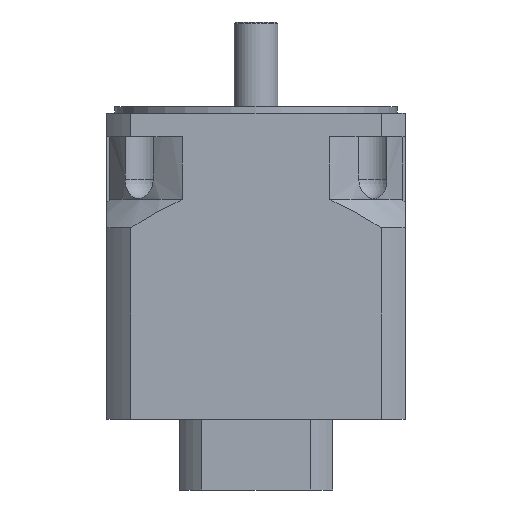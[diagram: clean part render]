
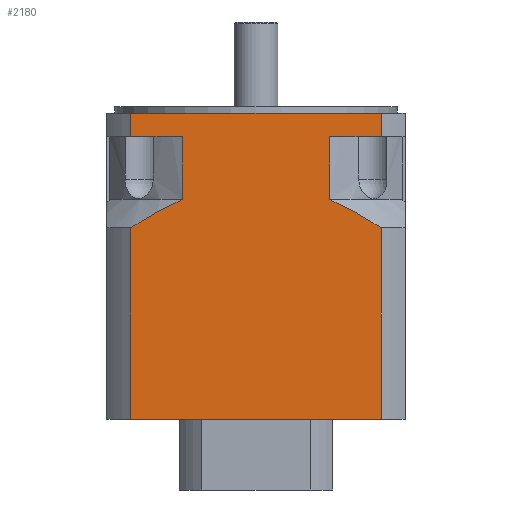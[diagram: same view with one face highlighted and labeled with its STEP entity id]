
A CAD part, front view. The second image highlights one B-rep face of the part: STEP entity #2180.
In plain terms, the highlighted planar face has unit normal (0, -1, 0).
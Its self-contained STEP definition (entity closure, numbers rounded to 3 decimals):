
#860=CARTESIAN_POINT('',(-79.693,-95.,240.0));
#861=VERTEX_POINT('',#860);
#862=CARTESIAN_POINT('',(79.693,-95.,240.0));
#863=VERTEX_POINT('',#862);
#864=CARTESIAN_POINT('',(-79.693,-95.0,240.0));
#865=DIRECTION('',(1.0,0.0,0.0));
#866=VECTOR('',#865,159.386);
#867=LINE('',#864,#866);
#868=EDGE_CURVE('',#861,#863,#867,.T.);
#1015=CARTESIAN_POINT('',(79.693,-95.,225.0));
#1016=VERTEX_POINT('',#1015);
#1017=CARTESIAN_POINT('',(79.693,-95.,240.0));
#1018=DIRECTION('',(0.0,0.0,-1.0));
#1019=VECTOR('',#1018,15.0);
#1020=LINE('',#1017,#1019);
#1021=EDGE_CURVE('',#863,#1016,#1020,.T.);
#1047=CARTESIAN_POINT('',(-79.693,-95.0,225.0));
#1048=VERTEX_POINT('',#1047);
#1049=CARTESIAN_POINT('',(-79.693,-95.0,225.0));
#1050=DIRECTION('',(0.0,0.0,1.0));
#1051=VECTOR('',#1050,15.0);
#1052=LINE('',#1049,#1051);
#1053=EDGE_CURVE('',#1048,#861,#1052,.T.);
#1217=CARTESIAN_POINT('',(47.021,-95.0,225.0));
#1218=VERTEX_POINT('',#1217);
#1219=CARTESIAN_POINT('',(79.693,-95.,225.0));
#1220=DIRECTION('',(-1.0,0.0,0.0));
#1221=VECTOR('',#1220,32.672);
#1222=LINE('',#1219,#1221);
#1223=EDGE_CURVE('',#1016,#1218,#1222,.T.);
#1286=CARTESIAN_POINT('',(-47.021,-95.0,225.0));
#1287=VERTEX_POINT('',#1286);
#1288=CARTESIAN_POINT('',(-47.021,-95.0,225.0));
#1289=DIRECTION('',(-1.0,0.0,0.0));
#1290=VECTOR('',#1289,32.672);
#1291=LINE('',#1288,#1290);
#1292=EDGE_CURVE('',#1287,#1048,#1291,.T.);
#1738=CARTESIAN_POINT('',(47.021,-95.0,185.0));
#1739=VERTEX_POINT('',#1738);
#1747=CARTESIAN_POINT('',(79.693,-95.,167.0));
#1748=VERTEX_POINT('',#1747);
#1749=CARTESIAN_POINT('',(79.693,-95.,167.0));
#1750=CARTESIAN_POINT('',(62.079,-95.0,178.321));
#1751=CARTESIAN_POINT('',(47.021,-95.0,185.0));
#1759=(BOUNDED_CURVE()B_SPLINE_CURVE(2,(#1749,#1750,#1751),.UNSPECIFIED.,.F.,.U.)B_SPLINE_CURVE_WITH_KNOTS((3,3),(0.324,4.1),.UNSPECIFIED.)CURVE()GEOMETRIC_REPRESENTATION_ITEM()RATIONAL_B_SPLINE_CURVE((1.002,1.011,1.0))REPRESENTATION_ITEM(''));
#1760=EDGE_CURVE('',#1748,#1739,#1759,.T.);
#1921=CARTESIAN_POINT('',(47.021,-95.0,185.0));
#1922=DIRECTION('',(0.0,0.0,1.0));
#1923=VECTOR('',#1922,40.0);
#1924=LINE('',#1921,#1923);
#1925=EDGE_CURVE('',#1739,#1218,#1924,.T.);
#1981=CARTESIAN_POINT('',(-47.021,-95.0,185.0));
#1982=VERTEX_POINT('',#1981);
#1990=CARTESIAN_POINT('',(-47.021,-95.0,225.0));
#1991=DIRECTION('',(0.0,0.0,-1.0));
#1992=VECTOR('',#1991,40.0);
#1993=LINE('',#1990,#1992);
#1994=EDGE_CURVE('',#1287,#1982,#1993,.T.);
#2052=CARTESIAN_POINT('',(-79.693,-95.,167.));
#2053=VERTEX_POINT('',#2052);
#2061=CARTESIAN_POINT('',(-47.021,-95.,185.0));
#2062=CARTESIAN_POINT('',(-62.079,-95.,178.321));
#2063=CARTESIAN_POINT('',(-79.693,-95.,167.));
#2071=(BOUNDED_CURVE()B_SPLINE_CURVE(2,(#2061,#2062,#2063),.UNSPECIFIED.,.F.,.U.)B_SPLINE_CURVE_WITH_KNOTS((3,3),(0.0,3.776),.UNSPECIFIED.)CURVE()GEOMETRIC_REPRESENTATION_ITEM()RATIONAL_B_SPLINE_CURVE((1.0,1.011,1.002))REPRESENTATION_ITEM(''));
#2072=EDGE_CURVE('',#1982,#2053,#2071,.T.);
#2142=CARTESIAN_POINT('',(95.,-95.,45.0));
#2143=DIRECTION('',(0.0,-1.0,0.0));
#2144=DIRECTION('',(0.0,0.0,-1.0));
#2145=AXIS2_PLACEMENT_3D('',#2142,#2143,#2144);
#2146=PLANE('',#2145);
#2147=ORIENTED_EDGE('',*,*,#1994,.T.);
#2148=ORIENTED_EDGE('',*,*,#2072,.T.);
#2149=CARTESIAN_POINT('',(-79.693,-95.,45.0));
#2150=VERTEX_POINT('',#2149);
#2151=CARTESIAN_POINT('',(-79.693,-95.,45.0));
#2152=DIRECTION('',(0.0,0.0,1.0));
#2153=VECTOR('',#2152,122.);
#2154=LINE('',#2151,#2153);
#2155=EDGE_CURVE('',#2150,#2053,#2154,.T.);
#2156=ORIENTED_EDGE('',*,*,#2155,.F.);
#2157=CARTESIAN_POINT('',(79.693,-95.,45.0));
#2158=VERTEX_POINT('',#2157);
#2159=CARTESIAN_POINT('',(79.693,-95.0,45.0));
#2160=DIRECTION('',(-1.0,0.0,0.0));
#2161=VECTOR('',#2160,159.386);
#2162=LINE('',#2159,#2161);
#2163=EDGE_CURVE('',#2158,#2150,#2162,.T.);
#2164=ORIENTED_EDGE('',*,*,#2163,.F.);
#2165=CARTESIAN_POINT('',(79.693,-95.,167.0));
#2166=DIRECTION('',(0.0,0.0,-1.0));
#2167=VECTOR('',#2166,122.0);
#2168=LINE('',#2165,#2167);
#2169=EDGE_CURVE('',#1748,#2158,#2168,.T.);
#2170=ORIENTED_EDGE('',*,*,#2169,.F.);
#2171=ORIENTED_EDGE('',*,*,#1760,.T.);
#2172=ORIENTED_EDGE('',*,*,#1925,.T.);
#2173=ORIENTED_EDGE('',*,*,#1223,.F.);
#2174=ORIENTED_EDGE('',*,*,#1021,.F.);
#2175=ORIENTED_EDGE('',*,*,#868,.F.);
#2176=ORIENTED_EDGE('',*,*,#1053,.F.);
#2177=ORIENTED_EDGE('',*,*,#1292,.F.);
#2178=EDGE_LOOP('',(#2147,#2148,#2156,#2164,#2170,#2171,#2172,#2173,#2174,#2175,#2176,#2177));
#2179=FACE_OUTER_BOUND('',#2178,.T.);
#2180=ADVANCED_FACE('',(#2179),#2146,.T.);
